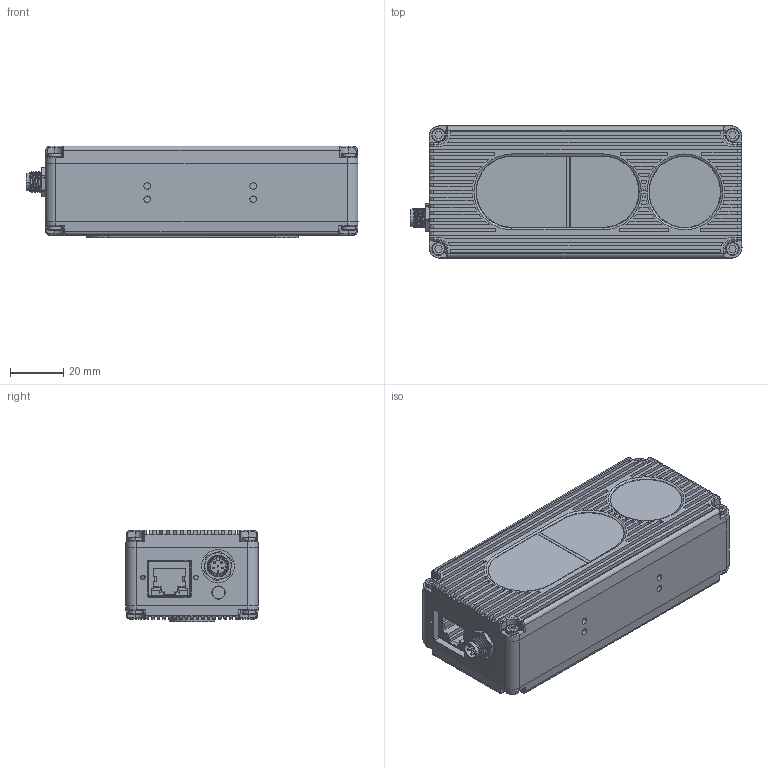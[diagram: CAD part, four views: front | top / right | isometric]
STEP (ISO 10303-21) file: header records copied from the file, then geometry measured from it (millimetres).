
FILE_DESCRIPTION(/* description */ (''),/* implementation_level */ '2;1');
FILE_NAME(/* name */ 'NEVO86_NYX650-Mechanical_Outline_3D_stp_stp.stp',/* time_stamp */ '2024-06-13T10:13:14+08:00',/* author */ (''),/* organization */ (''),/* preprocessor_version */ 'ST-DEVELOPER v16',/* originating_system */ 'SIEMENS PLM Software NX 10.0',/* authorisation */ '');
FILE_SCHEMA (('AUTOMOTIVE_DESIGN { 1 0 10303 214 3 1 1 1 }'));
Products named in the file (1): cade41B88952zvmp
Bounding box: 125.2 x 50 x 34.5 mm (x, y, z)
Volume: 187338.5 mm3; surface area: 43283.7 mm2
Topology: 13 solids, 24 shells, 1845 faces, 5086 edges, 3363 vertices
Faces by surface type: plane 940, cylinder 511, cone 153, bspline 141, torus 68, sphere 32
Entity records: 93520 total; most frequent: CARTESIAN_POINT 47240, ORIENTED_EDGE 10076, DIRECTION 8932, EDGE_CURVE 5038, VERTEX_POINT 3363, AXIS2_PLACEMENT_3D 3111, LINE 2710, VECTOR 2710
